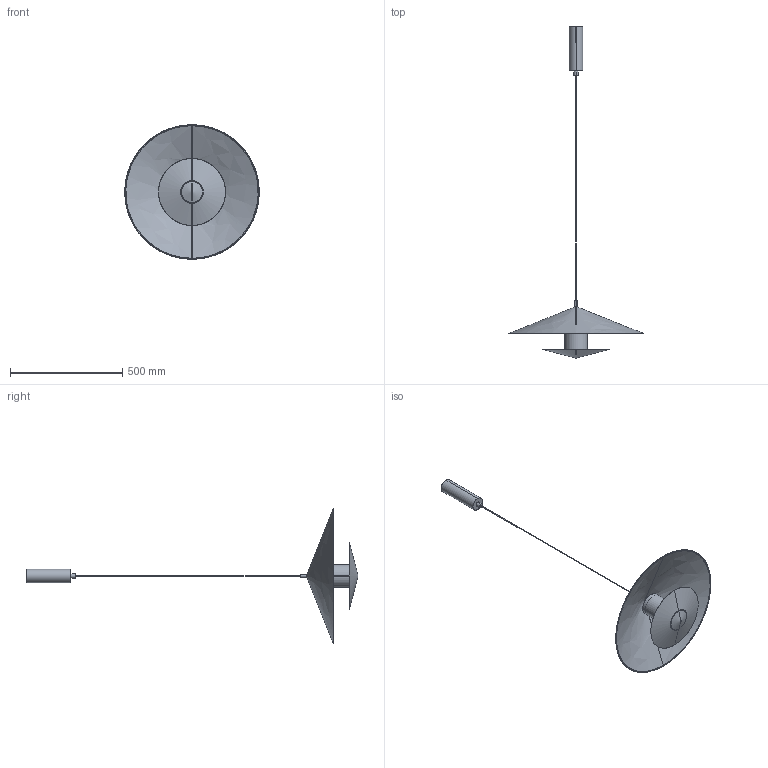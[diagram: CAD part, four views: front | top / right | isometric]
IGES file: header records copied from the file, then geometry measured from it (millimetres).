
Start section: SolidWorks IGES file using analytic representation for surfaces
Global section: file name: C:\Users\Agustin\Desktop\ARNOLD\SEPT 2025\2D-3D DEFINITIVO ONEDRIVE\2D-3D GEHIT_C1350_60\GEHIT_C1350_60.IGS; native system: SolidWorks 2018; preprocessor: SolidWorks 2018; author: Agustin; date: 250905.174122; units: millimetre
Bounding box: 597.87 x 1477.24 x 597.9 mm (x, y, z)
Surface area: 944927 mm2 (no closed solid volume)
Topology: 0 solids, 0 shells, 47 faces, 1144 edges, 1140 vertices
Faces by surface type: revolution 24, bspline 23
